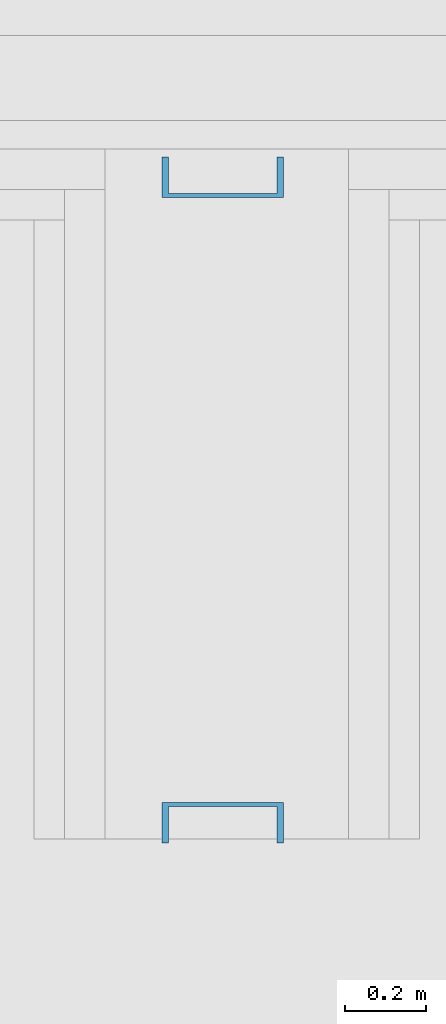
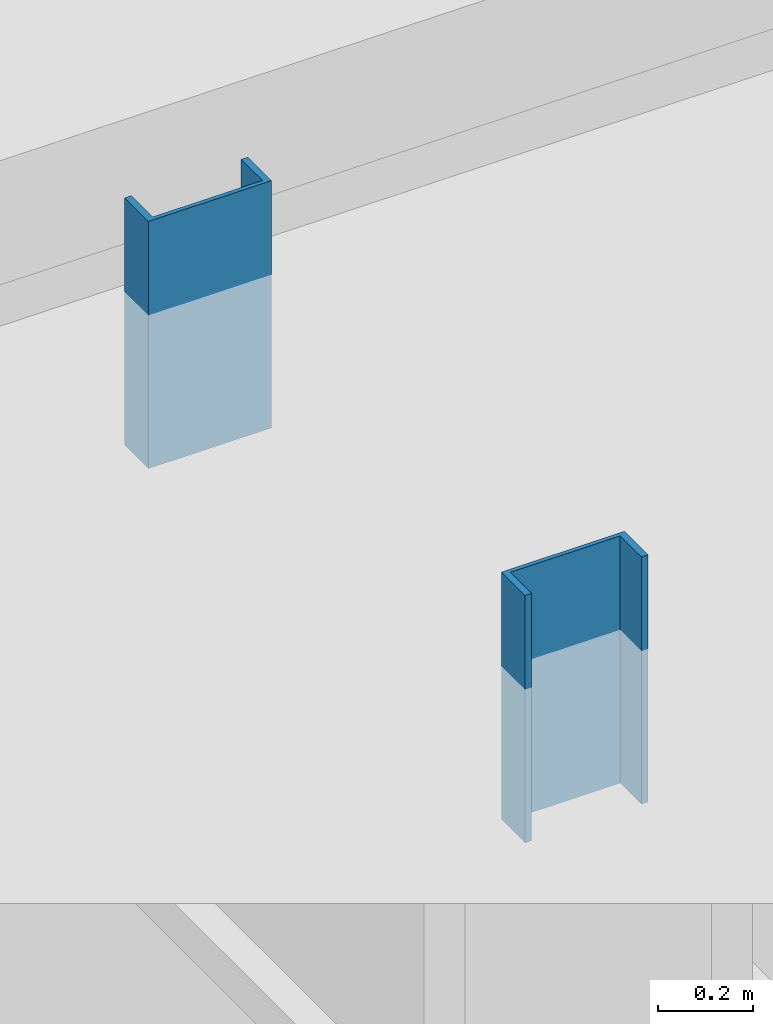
# One storey, part 1 of 15: 2 columns.
"""IFC2X3 building model written with IfcOpenShell, lengths in millimetres."""

from ifc_helpers import new_model, entity, si_unit, converted_unit, derived_unit, money_unit, direction, frame, origin_with_axes, place, context, subcontext, project, spatial, faceted_brep, material, type_object, element, save


model = new_model("IFC2X3")

# Units and contexts
model_context = context("Model", 3, precision=0.01, world=origin_with_axes(), true_north=direction((0.0, 1.0)))
plan_context = context("Plan", 3, precision=0.01, world=origin_with_axes(), true_north=direction((0.0, 1.0)))
body_context = subcontext(model_context, "Body", "Model", "MODEL_VIEW")
ifc_project = project(units=[si_unit("LENGTHUNIT", "METRE", prefix="MILLI"), si_unit("AREAUNIT", "SQUARE_METRE"), si_unit("VOLUMEUNIT", "CUBIC_METRE"), converted_unit("PLANEANGLEUNIT", "DEGREE", entity("IfcPlaneAngleMeasure", 0.0174532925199), si_unit("PLANEANGLEUNIT", "RADIAN"), dimensions=[0, 0, 0, 0, 0, 0, 0]), money_unit("EUR"), converted_unit("TIMEUNIT", "Year", entity("IfcTimeMeasure", 31556926.0), si_unit("TIMEUNIT", "SECOND"), dimensions=[0, 0, 1, 0, 0, 0, 0]), si_unit("MASSUNIT", "GRAM", prefix="KILO"), si_unit("THERMODYNAMICTEMPERATUREUNIT", "DEGREE_CELSIUS"), si_unit("LUMINOUSINTENSITYUNIT", "LUMEN"), si_unit("ENERGYUNIT", "JOULE", prefix="MEGA"), derived_unit("THERMALCONDUCTANCEUNIT", [(si_unit("POWERUNIT", "WATT"), 1), (si_unit("LENGTHUNIT", "METRE"), -1), (si_unit("THERMODYNAMICTEMPERATUREUNIT", "KELVIN"), -1)]), derived_unit("SPECIFICHEATCAPACITYUNIT", [(si_unit("ENERGYUNIT", "JOULE"), 1), (si_unit("MASSUNIT", "GRAM", prefix="KILO"), -1), (si_unit("THERMODYNAMICTEMPERATUREUNIT", "KELVIN"), -1)]), derived_unit("MASSDENSITYUNIT", [(si_unit("MASSUNIT", "GRAM", prefix="KILO"), 1), (si_unit("VOLUMEUNIT", "CUBIC_METRE"), -1)])], contexts=[model_context, plan_context])

# Site, building, storey
site_placement = place(None, origin_with_axes())
site = spatial("IfcSite", under=ifc_project, at=site_placement, Name="Site", CompositionType="ELEMENT")
building_placement = place(site_placement, origin_with_axes())
building = spatial("IfcBuilding", under=site, at=building_placement, Name="Naam gebouw", CompositionType="ELEMENT")
storey_placement = place(building_placement, frame((0.0, 0.0, -1050.0), z_axis=(0.0, 0.0, 1.0), x_axis=(1.0, 0.0, 0.0)))
storey = spatial("IfcBuildingStorey", under=building, at=storey_placement, Name="fundering", CompositionType="ELEMENT", Elevation=-1050.0)

# Columns
ifc_material = material(Name="Metaal - Staal C")
column_type = type_object("IfcColumnType", Name="UNP300 100 x 300", PredefinedType="COLUMN")
column_1_placement = place(storey_placement, frame((53574.999908, 11649.9999578, 553.244674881), z_axis=(0.0, 0.0, 1.0), x_axis=(0.0, -1.0, 0.0)))
element("IfcColumn", 1, at=column_1_placement, inside=storey, type_object=column_type, material=ifc_material, Name="28_kolom koker", ObjectType="COLUMN", context=body_context, shape_type="Brep", body=[
    faceted_brep([(0.0, 0.0, 637.0), (0.0, 0.0, 0.0), (-100.0, 0.0, 0.0), (-100.0, 0.0, 637.0), (0.0, -300.0, 637.0), (0.0, -300.0, 0.0), (-100.0, -300.0, 0.0), (-100.0, -284.0, 0.0), (-10.0, -284.0, 0.0), (-10.0, -16.0, 0.0), (-100.0, -16.0, 0.0), (-100.0, -16.0, 637.0), (-10.0, -16.0, 637.0), (-10.0, -284.0, 637.0), (-100.0, -284.0, 637.0), (-100.0, -300.0, 637.0)], [[[0, 1, 2, 3]], [[4, 5, 1, 0]], [[2, 1, 5, 6, 7, 8, 9, 10]], [[3, 2, 10, 11]], [[4, 0, 3, 11, 12, 13, 14, 15]], [[15, 6, 5, 4]], [[14, 7, 6, 15]], [[13, 8, 7, 14]], [[12, 9, 8, 13]], [[11, 10, 9, 12]]]),
])
column_2_placement = place(storey_placement, frame((53574.999908, 10160.0, 553.244674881), z_axis=(0.0, 0.0, 1.0), x_axis=(0.0, -1.0, 0.0)))
element("IfcColumn", 2, at=column_2_placement, inside=storey, type_object=column_type, material=ifc_material, Name="28_kolom koker", ObjectType="COLUMN", context=body_context, shape_type="Brep", body=[
    faceted_brep([(0.0, -300.0, 637.0), (0.0, -300.0, 0.0), (100.0, -300.0, 0.0), (100.0, -300.0, 637.0), (0.0, 0.0, 637.0), (0.0, 0.0, 0.0), (100.0, 0.0, 0.0), (100.0, -16.0, 0.0), (10.0, -16.0, 0.0), (10.0, -284.0, 0.0), (100.0, -284.0, 0.0), (100.0, -284.0, 637.0), (10.0, -284.0, 637.0), (10.0, -16.0, 637.0), (100.0, -16.0, 637.0), (100.0, 0.0, 637.0)], [[[0, 1, 2, 3]], [[4, 5, 1, 0]], [[2, 1, 5, 6, 7, 8, 9, 10]], [[3, 2, 10, 11]], [[4, 0, 3, 11, 12, 13, 14, 15]], [[15, 6, 5, 4]], [[14, 7, 6, 15]], [[13, 8, 7, 14]], [[12, 9, 8, 13]], [[11, 10, 9, 12]]]),
])

save(model, "model.ifc")
